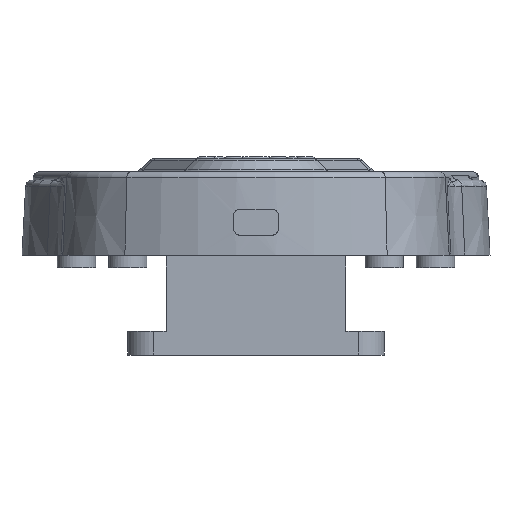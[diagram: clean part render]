
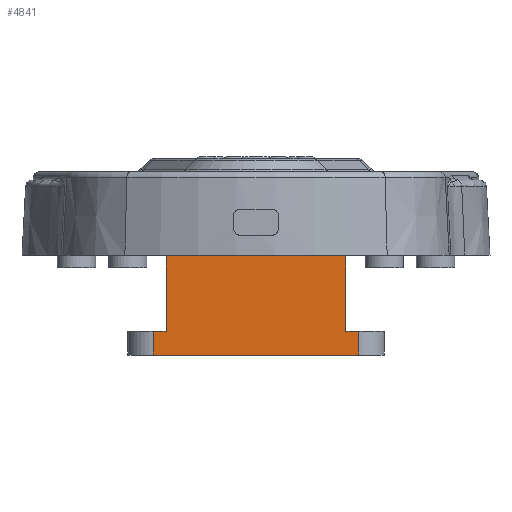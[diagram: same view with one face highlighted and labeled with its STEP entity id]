
A CAD part, front view. The second image highlights one B-rep face of the part: STEP entity #4841.
In plain terms, the highlighted planar face has unit normal (0, -1, 0).
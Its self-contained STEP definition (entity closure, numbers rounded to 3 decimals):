
#4283=FACE_OUTER_BOUND('',#6073,.T.);
#4841=ADVANCED_FACE('',(#4283),#5127,.F.);
#5127=PLANE('',#13663);
#6073=EDGE_LOOP('',(#9711,#9712,#9713,#9714,#9715,#9716,#9717,#9718,#9719,
#9720));
#6603=LINE('',#20888,#7174);
#6604=LINE('',#20894,#7175);
#6605=LINE('',#20897,#7176);
#6606=LINE('',#20899,#7177);
#6607=LINE('',#20901,#7178);
#6608=LINE('',#20902,#7179);
#6609=LINE('',#20904,#7180);
#6610=LINE('',#20906,#7181);
#6611=LINE('',#20908,#7182);
#6612=LINE('',#20910,#7183);
#7174=VECTOR('',#16048,1.);
#7175=VECTOR('',#16055,1.);
#7176=VECTOR('',#16056,1.);
#7177=VECTOR('',#16057,1.);
#7178=VECTOR('',#16058,1.);
#7179=VECTOR('',#16059,1.);
#7180=VECTOR('',#16060,1.);
#7181=VECTOR('',#16061,1.);
#7182=VECTOR('',#16062,1.);
#7183=VECTOR('',#16063,1.);
#9711=ORIENTED_EDGE('',*,*,#12179,.F.);
#9712=ORIENTED_EDGE('',*,*,#12180,.T.);
#9713=ORIENTED_EDGE('',*,*,#12181,.T.);
#9714=ORIENTED_EDGE('',*,*,#12182,.T.);
#9715=ORIENTED_EDGE('',*,*,#12176,.T.);
#9716=ORIENTED_EDGE('',*,*,#12183,.T.);
#9717=ORIENTED_EDGE('',*,*,#12184,.F.);
#9718=ORIENTED_EDGE('',*,*,#12185,.T.);
#9719=ORIENTED_EDGE('',*,*,#12186,.F.);
#9720=ORIENTED_EDGE('',*,*,#12187,.T.);
#10844=VERTEX_POINT('',#20889);
#10845=VERTEX_POINT('',#20890);
#10846=VERTEX_POINT('',#20895);
#10847=VERTEX_POINT('',#20896);
#10848=VERTEX_POINT('',#20898);
#10849=VERTEX_POINT('',#20900);
#10850=VERTEX_POINT('',#20903);
#10851=VERTEX_POINT('',#20905);
#10852=VERTEX_POINT('',#20907);
#10853=VERTEX_POINT('',#20909);
#12176=EDGE_CURVE('',#10844,#10845,#6603,.T.);
#12179=EDGE_CURVE('',#10846,#10847,#6604,.T.);
#12180=EDGE_CURVE('',#10846,#10848,#6605,.T.);
#12181=EDGE_CURVE('',#10848,#10849,#6606,.T.);
#12182=EDGE_CURVE('',#10849,#10844,#6607,.T.);
#12183=EDGE_CURVE('',#10845,#10850,#6608,.T.);
#12184=EDGE_CURVE('',#10851,#10850,#6609,.T.);
#12185=EDGE_CURVE('',#10851,#10852,#6610,.T.);
#12186=EDGE_CURVE('',#10853,#10852,#6611,.T.);
#12187=EDGE_CURVE('',#10853,#10847,#6612,.T.);
#13663=AXIS2_PLACEMENT_3D('',#20911,#16064,#16065);
#16048=DIRECTION('',(0.,0.,-1.));
#16055=DIRECTION('',(1.,0.,0.));
#16056=DIRECTION('',(-0.707,0.,-0.707));
#16057=DIRECTION('',(0.,0.,-1.));
#16058=DIRECTION('',(-1.,0.,0.));
#16059=DIRECTION('',(1.,0.,0.));
#16060=DIRECTION('',(0.,0.,-1.));
#16061=DIRECTION('',(-1.,0.,0.));
#16062=DIRECTION('',(0.,0.,-1.));
#16063=DIRECTION('',(-0.707,0.,0.707));
#16064=DIRECTION('',(0.,1.,0.));
#16065=DIRECTION('',(0.,0.,1.));
#20888=CARTESIAN_POINT('',(-16.02,-16.,-9.9));
#20889=CARTESIAN_POINT('',(-16.02,-16.,-11.9));
#20890=CARTESIAN_POINT('',(-16.02,-16.,-15.6));
#20894=CARTESIAN_POINT('',(-14.,-16.,9.6));
#20895=CARTESIAN_POINT('',(-11.,-16.,9.6));
#20896=CARTESIAN_POINT('',(11.,-16.,9.6));
#20897=CARTESIAN_POINT('',(-11.,-16.,9.6));
#20898=CARTESIAN_POINT('',(-14.,-16.,6.6));
#20899=CARTESIAN_POINT('',(-14.,-16.,12.6));
#20900=CARTESIAN_POINT('',(-14.,-16.,-11.9));
#20901=CARTESIAN_POINT('',(16.02,-16.,-11.9));
#20902=CARTESIAN_POINT('',(-14.,-16.,-15.6));
#20903=CARTESIAN_POINT('',(16.02,-16.,-15.6));
#20904=CARTESIAN_POINT('',(16.02,-16.,-9.9));
#20905=CARTESIAN_POINT('',(16.02,-16.,-11.9));
#20906=CARTESIAN_POINT('',(16.02,-16.,-11.9));
#20907=CARTESIAN_POINT('',(14.,-16.,-11.9));
#20908=CARTESIAN_POINT('',(14.,-16.,12.6));
#20909=CARTESIAN_POINT('',(14.,-16.,6.6));
#20910=CARTESIAN_POINT('',(14.,-16.,6.6));
#20911=CARTESIAN_POINT('',(-14.,-16.,12.6));
